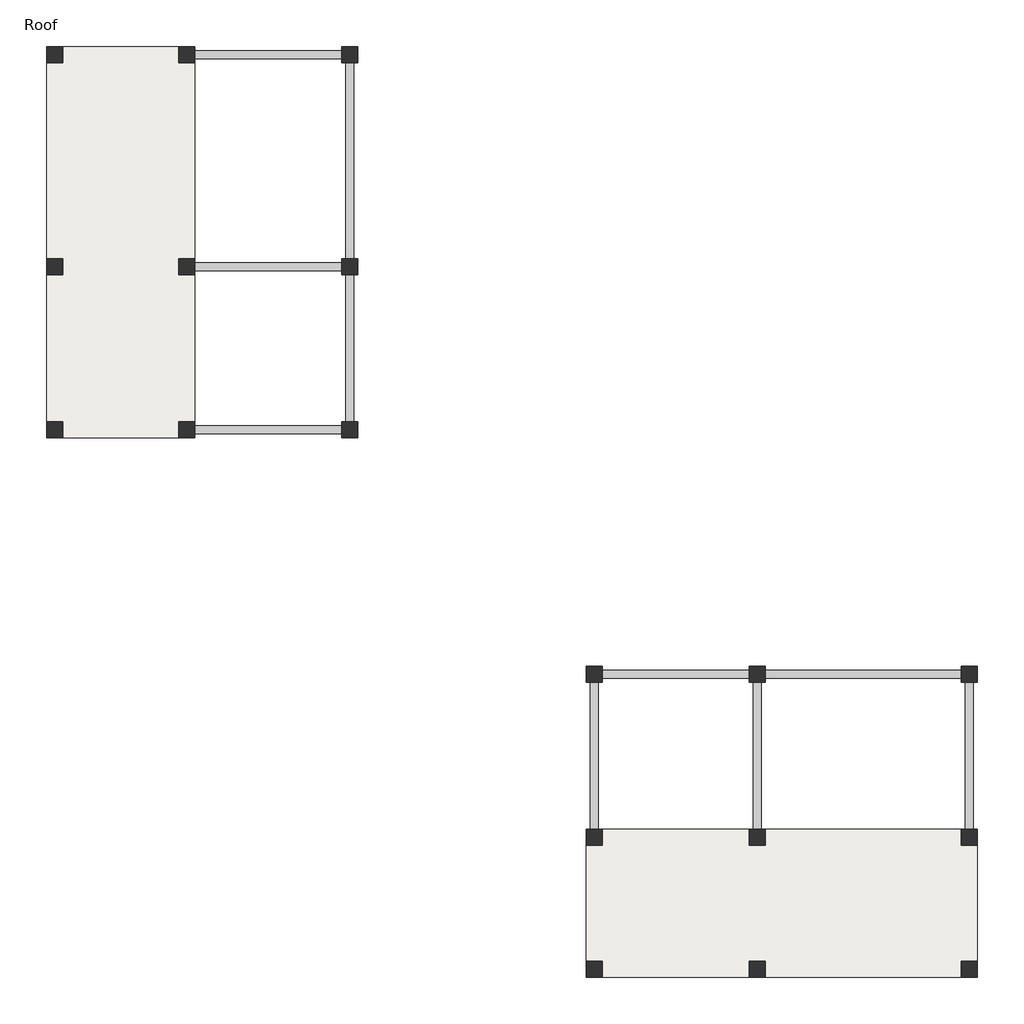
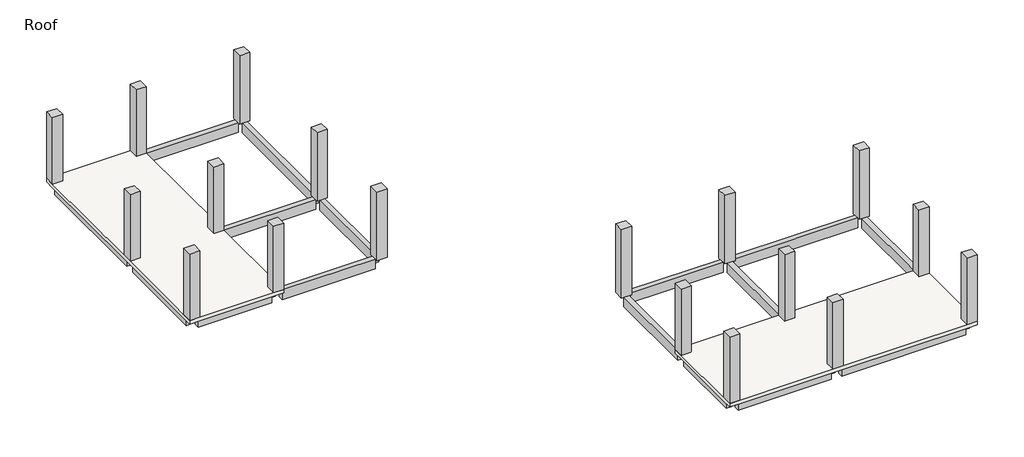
# One storey: 24 beams, 18 columns, 4 slabs.
"""IFC4 building model written with IfcOpenShell, lengths in millimetres."""

from ifc_helpers import new_model, si_unit, frame, origin, place, context, project, spatial, polyline, outline, extrude, faceted_brep, element, save

model = new_model("IFC4")

# Units and contexts
model_context = context("Model", 3, world=origin())
ifc_project = project(units=[si_unit("LENGTHUNIT", "METRE", prefix="MILLI")], contexts=[model_context])

# Site, building, storey
site = spatial("IfcSite", under=ifc_project)
building = spatial("IfcBuilding", under=site)
storey = spatial("IfcBuildingStorey", under=building, Name="Roof", Elevation=7315.0)

# Beams
placement = place(None, origin())
element("IfcBeam", 1, ObjectType="M_Concrete-Rectangular Beam : 300 x 600mm", at=placement, inside=storey, context=model_context, shape_type="SweptSolid", body=[
    extrude(outline(polyline([(-16304.9035319, 4112.1636035), (-16304.9035319, 4412.1636035), (-10808.9035319, 4412.1636035), (-10808.9035319, 4112.1636035), (-16304.9035319, 4112.1636035)])), frame((0.0, 0.0, 6715.0), z_axis=(0.0, 0.0, 1.0), x_axis=(1.0, 0.0, 0.0)), (0.0, 0.0, 1.0), 600.0),
])
element("IfcBeam", 2, ObjectType="M_Concrete-Rectangular Beam : 300 x 600mm", at=placement, inside=storey, context=model_context, shape_type="SweptSolid", body=[
    extrude(outline(polyline([(-21244.300634, 4112.1636035), (-21244.300634, 4412.1636035), (-16904.9035319, 4412.1636035), (-16904.9035319, 4112.1636035), (-21244.300634, 4112.1636035)])), frame((0.0, 0.0, 6715.0), z_axis=(0.0, 0.0, 1.0), x_axis=(1.0, 0.0, 0.0)), (0.0, 0.0, 1.0), 510.0),
])
element("IfcBeam", 3, ObjectType="M_Concrete-Rectangular Beam : 300 x 600mm", at=placement, inside=storey, context=model_context, shape_type="SweptSolid", body=[
    extrude(outline(polyline([(-16304.9035319, -3812.8363965), (-16304.9035319, -3512.8363965), (-10808.9035319, -3512.8363965), (-10808.9035319, -3812.8363965), (-16304.9035319, -3812.8363965)])), frame((0.0, 0.0, 6715.0), z_axis=(0.0, 0.0, 1.0), x_axis=(1.0, 0.0, 0.0)), (0.0, 0.0, 1.0), 600.0),
])
element("IfcBeam", 4, ObjectType="M_Concrete-Rectangular Beam : 300 x 600mm", at=placement, inside=storey, context=model_context, shape_type="SweptSolid", body=[
    extrude(outline(polyline([(-21244.300634, -3812.8363965), (-21244.300634, -3512.8363965), (-16904.9035319, -3512.8363965), (-16904.9035319, -3812.8363965), (-21244.300634, -3812.8363965)])), frame((0.0, 0.0, 6715.0), z_axis=(0.0, 0.0, 1.0), x_axis=(1.0, 0.0, 0.0)), (0.0, 0.0, 1.0), 510.0),
])
element("IfcBeam", 5, ObjectType="M_Concrete-Rectangular Beam : 300 x 600mm", at=placement, inside=storey, context=model_context, shape_type="SweptSolid", body=[
    extrude(outline(polyline([(-16304.9035319, -9908.8363965), (-16304.9035319, -9608.8363965), (-10808.9035319, -9608.8363965), (-10808.9035319, -9908.8363965), (-16304.9035319, -9908.8363965)])), frame((0.0, 0.0, 6715.0), z_axis=(0.0, 0.0, 1.0), x_axis=(1.0, 0.0, 0.0)), (0.0, 0.0, 1.0), 600.0),
])
element("IfcBeam", 6, ObjectType="M_Concrete-Rectangular Beam : 300 x 600mm", at=placement, inside=storey, context=model_context, shape_type="SweptSolid", body=[
    extrude(outline(polyline([(-21244.300634, -9908.8363965), (-21244.300634, -9608.8363965), (-16904.9035319, -9608.8363965), (-16904.9035319, -9908.8363965), (-21244.300634, -9908.8363965)])), frame((0.0, 0.0, 6715.0), z_axis=(0.0, 0.0, 1.0), x_axis=(1.0, 0.0, 0.0)), (0.0, 0.0, 1.0), 510.0),
])
element("IfcBeam", 7, ObjectType="M_Concrete-Rectangular Beam : 300 x 600mm", at=placement, inside=storey, context=model_context, shape_type="SweptSolid", body=[
    extrude(outline(polyline([(-21394.300634, -3362.8363965), (-21694.300634, -3362.8363965), (-21694.300634, 3962.1636035), (-21394.300634, 3962.1636035), (-21394.300634, -3362.8363965)])), frame((0.0, 0.0, 6715.0), z_axis=(0.0, 0.0, 1.0), x_axis=(1.0, 0.0, 0.0)), (0.0, 0.0, 1.0), 510.0),
])
element("IfcBeam", 8, ObjectType="M_Concrete-Rectangular Beam : 300 x 600mm", at=placement, inside=storey, context=model_context, shape_type="SweptSolid", body=[
    extrude(outline(polyline([(-21394.300634, -9458.8363965), (-21694.300634, -9458.8363965), (-21694.300634, -3962.8363965), (-21394.300634, -3962.8363965), (-21394.300634, -9458.8363965)])), frame((0.0, 0.0, 6715.0), z_axis=(0.0, 0.0, 1.0), x_axis=(1.0, 0.0, 0.0)), (0.0, 0.0, 1.0), 510.0),
])
element("IfcBeam", 9, ObjectType="M_Concrete-Rectangular Beam : 300 x 600mm", at=placement, inside=storey, context=model_context, shape_type="SweptSolid", body=[
    extrude(outline(polyline([(-16454.9035319, -9458.8363965), (-16754.9035319, -9458.8363965), (-16754.9035319, -3962.8363965), (-16454.9035319, -3962.8363965), (-16454.9035319, -9458.8363965)])), frame((0.0, 0.0, 6715.0), z_axis=(0.0, 0.0, 1.0), x_axis=(1.0, 0.0, 0.0)), (0.0, 0.0, 1.0), 510.0),
])
element("IfcBeam", 10, ObjectType="M_Concrete-Rectangular Beam : 300 x 600mm", at=placement, inside=storey, context=model_context, shape_type="SweptSolid", body=[
    extrude(outline(polyline([(-16454.9035319, -3362.8363965), (-16754.9035319, -3362.8363965), (-16754.9035319, 3962.1636035), (-16454.9035319, 3962.1636035), (-16454.9035319, -3362.8363965)])), frame((0.0, 0.0, 6715.0), z_axis=(0.0, 0.0, 1.0), x_axis=(1.0, 0.0, 0.0)), (0.0, 0.0, 1.0), 510.0),
])
element("IfcBeam", 11, ObjectType="M_Concrete-Rectangular Beam : 300 x 600mm", at=placement, inside=storey, context=model_context, shape_type="SweptSolid", body=[
    extrude(outline(polyline([(-10358.9035319, -9458.8363965), (-10658.9035319, -9458.8363965), (-10658.9035319, -3962.8363965), (-10358.9035319, -3962.8363965), (-10358.9035319, -9458.8363965)])), frame((0.0, 0.0, 6715.0), z_axis=(0.0, 0.0, 1.0), x_axis=(1.0, 0.0, 0.0)), (0.0, 0.0, 1.0), 600.0),
])
element("IfcBeam", 12, ObjectType="M_Concrete-Rectangular Beam : 300 x 600mm", at=placement, inside=storey, context=model_context, shape_type="SweptSolid", body=[
    extrude(outline(polyline([(-10358.9035319, -3362.8363965), (-10658.9035319, -3362.8363965), (-10658.9035319, 3962.1636035), (-10358.9035319, 3962.1636035), (-10358.9035319, -3362.8363965)])), frame((0.0, 0.0, 6715.0), z_axis=(0.0, 0.0, 1.0), x_axis=(1.0, 0.0, 0.0)), (0.0, 0.0, 1.0), 600.0),
])
element("IfcBeam", 13, ObjectType="M_Concrete-Rectangular Beam : 300 x 600mm", at=placement, inside=storey, context=model_context, shape_type="SweptSolid", body=[
    extrude(outline(polyline([(12806.0964681, -24698.8363965), (12506.0964681, -24698.8363965), (12506.0964681, -19202.8363965), (12806.0964681, -19202.8363965), (12806.0964681, -24698.8363965)])), frame((0.0, 0.0, 6715.0), z_axis=(0.0, 0.0, 1.0), x_axis=(1.0, 0.0, 0.0)), (0.0, 0.0, 1.0), 600.0),
])
element("IfcBeam", 14, ObjectType="M_Concrete-Rectangular Beam : 300 x 600mm", at=placement, inside=storey, context=model_context, shape_type="SweptSolid", body=[
    extrude(outline(polyline([(12806.0964681, -29638.2334986), (12506.0964681, -29638.2334986), (12506.0964681, -25298.8363965), (12806.0964681, -25298.8363965), (12806.0964681, -29638.2334986)])), frame((0.0, 0.0, 6715.0), z_axis=(0.0, 0.0, 1.0), x_axis=(1.0, 0.0, 0.0)), (0.0, 0.0, 1.0), 510.0),
])
element("IfcBeam", 15, ObjectType="M_Concrete-Rectangular Beam : 300 x 600mm", at=placement, inside=storey, context=model_context, shape_type="SweptSolid", body=[
    extrude(outline(polyline([(4881.0964681, -24698.8363965), (4581.0964681, -24698.8363965), (4581.0964681, -19202.8363965), (4881.0964681, -19202.8363965), (4881.0964681, -24698.8363965)])), frame((0.0, 0.0, 6715.0), z_axis=(0.0, 0.0, 1.0), x_axis=(1.0, 0.0, 0.0)), (0.0, 0.0, 1.0), 600.0),
])
element("IfcBeam", 16, ObjectType="M_Concrete-Rectangular Beam : 300 x 600mm", at=placement, inside=storey, context=model_context, shape_type="SweptSolid", body=[
    extrude(outline(polyline([(4881.0964681, -29638.2334986), (4581.0964681, -29638.2334986), (4581.0964681, -25298.8363965), (4881.0964681, -25298.8363965), (4881.0964681, -29638.2334986)])), frame((0.0, 0.0, 6715.0), z_axis=(0.0, 0.0, 1.0), x_axis=(1.0, 0.0, 0.0)), (0.0, 0.0, 1.0), 510.0),
])
element("IfcBeam", 17, ObjectType="M_Concrete-Rectangular Beam : 300 x 600mm", at=placement, inside=storey, context=model_context, shape_type="SweptSolid", body=[
    extrude(outline(polyline([(-1214.9035319, -24698.8363965), (-1514.9035319, -24698.8363965), (-1514.9035319, -19202.8363965), (-1214.9035319, -19202.8363965), (-1214.9035319, -24698.8363965)])), frame((0.0, 0.0, 6715.0), z_axis=(0.0, 0.0, 1.0), x_axis=(1.0, 0.0, 0.0)), (0.0, 0.0, 1.0), 600.0),
])
element("IfcBeam", 18, ObjectType="M_Concrete-Rectangular Beam : 300 x 600mm", at=placement, inside=storey, context=model_context, shape_type="SweptSolid", body=[
    extrude(outline(polyline([(-1214.9035319, -29638.2334986), (-1514.9035319, -29638.2334986), (-1514.9035319, -25298.8363965), (-1214.9035319, -25298.8363965), (-1214.9035319, -29638.2334986)])), frame((0.0, 0.0, 6715.0), z_axis=(0.0, 0.0, 1.0), x_axis=(1.0, 0.0, 0.0)), (0.0, 0.0, 1.0), 510.0),
])
element("IfcBeam", 19, ObjectType="M_Concrete-Rectangular Beam : 300 x 600mm", at=placement, inside=storey, context=model_context, shape_type="SweptSolid", body=[
    extrude(outline(polyline([(5031.0964681, -30088.2334986), (5031.0964681, -29788.2334986), (12356.0964681, -29788.2334986), (12356.0964681, -30088.2334986), (5031.0964681, -30088.2334986)])), frame((0.0, 0.0, 6715.0), z_axis=(0.0, 0.0, 1.0), x_axis=(1.0, 0.0, 0.0)), (0.0, 0.0, 1.0), 510.0),
])
element("IfcBeam", 20, ObjectType="M_Concrete-Rectangular Beam : 300 x 600mm", at=placement, inside=storey, context=model_context, shape_type="SweptSolid", body=[
    extrude(outline(polyline([(-1064.9035319, -30088.2334986), (-1064.9035319, -29788.2334986), (4431.0964681, -29788.2334986), (4431.0964681, -30088.2334986), (-1064.9035319, -30088.2334986)])), frame((0.0, 0.0, 6715.0), z_axis=(0.0, 0.0, 1.0), x_axis=(1.0, 0.0, 0.0)), (0.0, 0.0, 1.0), 510.0),
])
element("IfcBeam", 21, ObjectType="M_Concrete-Rectangular Beam : 300 x 600mm", at=placement, inside=storey, context=model_context, shape_type="SweptSolid", body=[
    extrude(outline(polyline([(-1064.9035319, -25148.8363965), (-1064.9035319, -24848.8363965), (4431.0964681, -24848.8363965), (4431.0964681, -25148.8363965), (-1064.9035319, -25148.8363965)])), frame((0.0, 0.0, 6715.0), z_axis=(0.0, 0.0, 1.0), x_axis=(1.0, 0.0, 0.0)), (0.0, 0.0, 1.0), 510.0),
])
element("IfcBeam", 22, ObjectType="M_Concrete-Rectangular Beam : 300 x 600mm", at=placement, inside=storey, context=model_context, shape_type="SweptSolid", body=[
    extrude(outline(polyline([(5031.0964681, -25148.8363965), (5031.0964681, -24848.8363965), (12356.0964681, -24848.8363965), (12356.0964681, -25148.8363965), (5031.0964681, -25148.8363965)])), frame((0.0, 0.0, 6715.0), z_axis=(0.0, 0.0, 1.0), x_axis=(1.0, 0.0, 0.0)), (0.0, 0.0, 1.0), 510.0),
])
element("IfcBeam", 23, ObjectType="M_Concrete-Rectangular Beam : 300 x 600mm", at=placement, inside=storey, context=model_context, shape_type="SweptSolid", body=[
    extrude(outline(polyline([(-1064.9035319, -19052.8363965), (-1064.9035319, -18752.8363965), (4431.0964681, -18752.8363965), (4431.0964681, -19052.8363965), (-1064.9035319, -19052.8363965)])), frame((0.0, 0.0, 6715.0), z_axis=(0.0, 0.0, 1.0), x_axis=(1.0, 0.0, 0.0)), (0.0, 0.0, 1.0), 600.0),
])
element("IfcBeam", 24, ObjectType="M_Concrete-Rectangular Beam : 300 x 600mm", at=placement, inside=storey, context=model_context, shape_type="SweptSolid", body=[
    extrude(outline(polyline([(5031.0964681, -19052.8363965), (5031.0964681, -18752.8363965), (12356.0964681, -18752.8363965), (12356.0964681, -19052.8363965), (5031.0964681, -19052.8363965)])), frame((0.0, 0.0, 6715.0), z_axis=(0.0, 0.0, 1.0), x_axis=(1.0, 0.0, 0.0)), (0.0, 0.0, 1.0), 600.0),
])

# Columns
element("IfcColumn", 25, ObjectType="M_Concrete-Rectangular-Column : 600 x 600mm", at=placement, inside=storey, context=model_context, shape_type="SweptSolid", body=[
    extrude(outline(polyline([(-21844.300634, -10058.8363965), (-21844.300634, -9458.8363965), (-21244.300634, -9458.8363965), (-21244.300634, -10058.8363965), (-21844.300634, -10058.8363965)])), frame((0.0, 0.0, 7435.0), z_axis=(0.0, 0.0, 1.0), x_axis=(1.0, 0.0, 0.0)), (0.0, 0.0, 1.0), 4147.0),
])
element("IfcColumn", 26, ObjectType="M_Concrete-Rectangular-Column : 600 x 600mm", at=placement, inside=storey, context=model_context, shape_type="SweptSolid", body=[
    extrude(outline(polyline([(-21844.300634, -3962.8363965), (-21844.300634, -3362.8363965), (-21244.300634, -3362.8363965), (-21244.300634, -3962.8363965), (-21844.300634, -3962.8363965)])), frame((0.0, 0.0, 7435.0), z_axis=(0.0, 0.0, 1.0), x_axis=(1.0, 0.0, 0.0)), (0.0, 0.0, 1.0), 4147.0),
])
element("IfcColumn", 27, ObjectType="M_Concrete-Rectangular-Column : 600 x 600mm", at=placement, inside=storey, context=model_context, shape_type="SweptSolid", body=[
    extrude(outline(polyline([(-21844.300634, 3962.1636035), (-21844.300634, 4562.1636035), (-21244.300634, 4562.1636035), (-21244.300634, 3962.1636035), (-21844.300634, 3962.1636035)])), frame((0.0, 0.0, 7435.0), z_axis=(0.0, 0.0, 1.0), x_axis=(1.0, 0.0, 0.0)), (0.0, 0.0, 1.0), 4147.0),
])
element("IfcColumn", 28, ObjectType="M_Concrete-Rectangular-Column : 600 x 600mm", at=placement, inside=storey, context=model_context, shape_type="SweptSolid", body=[
    extrude(outline(polyline([(-16904.9035319, -10058.8363965), (-16904.9035319, -9458.8363965), (-16304.9035319, -9458.8363965), (-16304.9035319, -10058.8363965), (-16904.9035319, -10058.8363965)])), frame((0.0, 0.0, 7435.0), z_axis=(0.0, 0.0, 1.0), x_axis=(1.0, 0.0, 0.0)), (0.0, 0.0, 1.0), 4147.0),
])
element("IfcColumn", 29, ObjectType="M_Concrete-Rectangular-Column : 600 x 600mm", at=placement, inside=storey, context=model_context, shape_type="SweptSolid", body=[
    extrude(outline(polyline([(-16904.9035319, -3962.8363965), (-16904.9035319, -3362.8363965), (-16304.9035319, -3362.8363965), (-16304.9035319, -3962.8363965), (-16904.9035319, -3962.8363965)])), frame((0.0, 0.0, 7435.0), z_axis=(0.0, 0.0, 1.0), x_axis=(1.0, 0.0, 0.0)), (0.0, 0.0, 1.0), 4147.0),
])
element("IfcColumn", 30, ObjectType="M_Concrete-Rectangular-Column : 600 x 600mm", at=placement, inside=storey, context=model_context, shape_type="SweptSolid", body=[
    extrude(outline(polyline([(-16904.9035319, 3962.1636035), (-16904.9035319, 4562.1636035), (-16304.9035319, 4562.1636035), (-16304.9035319, 3962.1636035), (-16904.9035319, 3962.1636035)])), frame((0.0, 0.0, 7435.0), z_axis=(0.0, 0.0, 1.0), x_axis=(1.0, 0.0, 0.0)), (0.0, 0.0, 1.0), 4147.0),
])
element("IfcColumn", 31, ObjectType="M_Concrete-Rectangular-Column : 600 x 600mm", at=placement, inside=storey, context=model_context, shape_type="SweptSolid", body=[
    extrude(outline(polyline([(-10808.9035319, -10058.8363965), (-10808.9035319, -9458.8363965), (-10208.9035319, -9458.8363965), (-10208.9035319, -10058.8363965), (-10808.9035319, -10058.8363965)])), frame((0.0, 0.0, 7315.0), z_axis=(0.0, 0.0, 1.0), x_axis=(1.0, 0.0, 0.0)), (0.0, 0.0, 1.0), 4267.0),
])
element("IfcColumn", 32, ObjectType="M_Concrete-Rectangular-Column : 600 x 600mm", at=placement, inside=storey, context=model_context, shape_type="SweptSolid", body=[
    extrude(outline(polyline([(-10808.9035319, -3962.8363965), (-10808.9035319, -3362.8363965), (-10208.9035319, -3362.8363965), (-10208.9035319, -3962.8363965), (-10808.9035319, -3962.8363965)])), frame((0.0, 0.0, 7315.0), z_axis=(0.0, 0.0, 1.0), x_axis=(1.0, 0.0, 0.0)), (0.0, 0.0, 1.0), 4267.0),
])
element("IfcColumn", 33, ObjectType="M_Concrete-Rectangular-Column : 600 x 600mm", at=placement, inside=storey, context=model_context, shape_type="SweptSolid", body=[
    extrude(outline(polyline([(-10808.9035319, 3962.1636035), (-10808.9035319, 4562.1636035), (-10208.9035319, 4562.1636035), (-10208.9035319, 3962.1636035), (-10808.9035319, 3962.1636035)])), frame((0.0, 0.0, 7315.0), z_axis=(0.0, 0.0, 1.0), x_axis=(1.0, 0.0, 0.0)), (0.0, 0.0, 1.0), 4267.0),
])
element("IfcColumn", 34, ObjectType="M_Concrete-Rectangular-Column : 600 x 600mm", at=placement, inside=storey, context=model_context, shape_type="SweptSolid", body=[
    extrude(outline(polyline([(-1064.9035319, -30238.2334986), (-1664.9035319, -30238.2334986), (-1664.9035319, -29638.2334986), (-1064.9035319, -29638.2334986), (-1064.9035319, -30238.2334986)])), frame((0.0, 0.0, 7435.0), z_axis=(0.0, 0.0, 1.0), x_axis=(1.0, 0.0, 0.0)), (0.0, 0.0, 1.0), 4147.0),
])
element("IfcColumn", 35, ObjectType="M_Concrete-Rectangular-Column : 600 x 600mm", at=placement, inside=storey, context=model_context, shape_type="SweptSolid", body=[
    extrude(outline(polyline([(5031.0964681, -30238.2334986), (4431.0964681, -30238.2334986), (4431.0964681, -29638.2334986), (5031.0964681, -29638.2334986), (5031.0964681, -30238.2334986)])), frame((0.0, 0.0, 7435.0), z_axis=(0.0, 0.0, 1.0), x_axis=(1.0, 0.0, 0.0)), (0.0, 0.0, 1.0), 4147.0),
])
element("IfcColumn", 36, ObjectType="M_Concrete-Rectangular-Column : 600 x 600mm", at=placement, inside=storey, context=model_context, shape_type="SweptSolid", body=[
    extrude(outline(polyline([(12956.0964681, -30238.2334986), (12356.0964681, -30238.2334986), (12356.0964681, -29638.2334986), (12956.0964681, -29638.2334986), (12956.0964681, -30238.2334986)])), frame((0.0, 0.0, 7435.0), z_axis=(0.0, 0.0, 1.0), x_axis=(1.0, 0.0, 0.0)), (0.0, 0.0, 1.0), 4147.0),
])
element("IfcColumn", 37, ObjectType="M_Concrete-Rectangular-Column : 600 x 600mm", at=placement, inside=storey, context=model_context, shape_type="SweptSolid", body=[
    extrude(outline(polyline([(-1064.9035319, -25298.8363965), (-1664.9035319, -25298.8363965), (-1664.9035319, -24698.8363965), (-1064.9035319, -24698.8363965), (-1064.9035319, -25298.8363965)])), frame((0.0, 0.0, 7435.0), z_axis=(0.0, 0.0, 1.0), x_axis=(1.0, 0.0, 0.0)), (0.0, 0.0, 1.0), 4147.0),
])
element("IfcColumn", 38, ObjectType="M_Concrete-Rectangular-Column : 600 x 600mm", at=placement, inside=storey, context=model_context, shape_type="SweptSolid", body=[
    extrude(outline(polyline([(5031.0964681, -25298.8363965), (4431.0964681, -25298.8363965), (4431.0964681, -24698.8363965), (5031.0964681, -24698.8363965), (5031.0964681, -25298.8363965)])), frame((0.0, 0.0, 7435.0), z_axis=(0.0, 0.0, 1.0), x_axis=(1.0, 0.0, 0.0)), (0.0, 0.0, 1.0), 4147.0),
])
element("IfcColumn", 39, ObjectType="M_Concrete-Rectangular-Column : 600 x 600mm", at=placement, inside=storey, context=model_context, shape_type="SweptSolid", body=[
    extrude(outline(polyline([(12956.0964681, -25298.8363965), (12356.0964681, -25298.8363965), (12356.0964681, -24698.8363965), (12956.0964681, -24698.8363965), (12956.0964681, -25298.8363965)])), frame((0.0, 0.0, 7435.0), z_axis=(0.0, 0.0, 1.0), x_axis=(1.0, 0.0, 0.0)), (0.0, 0.0, 1.0), 4147.0),
])
element("IfcColumn", 40, ObjectType="M_Concrete-Rectangular-Column : 600 x 600mm", at=placement, inside=storey, context=model_context, shape_type="SweptSolid", body=[
    extrude(outline(polyline([(-1664.9035319, -19202.8363965), (-1664.9035319, -18602.8363965), (-1064.9035319, -18602.8363965), (-1064.9035319, -19202.8363965), (-1664.9035319, -19202.8363965)])), frame((0.0, 0.0, 7315.0), z_axis=(0.0, 0.0, 1.0), x_axis=(1.0, 0.0, 0.0)), (0.0, 0.0, 1.0), 4267.0),
])
element("IfcColumn", 41, ObjectType="M_Concrete-Rectangular-Column : 600 x 600mm", at=placement, inside=storey, context=model_context, shape_type="SweptSolid", body=[
    extrude(outline(polyline([(4431.0964681, -19202.8363965), (4431.0964681, -18602.8363965), (5031.0964681, -18602.8363965), (5031.0964681, -19202.8363965), (4431.0964681, -19202.8363965)])), frame((0.0, 0.0, 7315.0), z_axis=(0.0, 0.0, 1.0), x_axis=(1.0, 0.0, 0.0)), (0.0, 0.0, 1.0), 4267.0),
])
element("IfcColumn", 42, ObjectType="M_Concrete-Rectangular-Column : 600 x 600mm", at=placement, inside=storey, context=model_context, shape_type="SweptSolid", body=[
    extrude(outline(polyline([(12356.0964681, -19202.8363965), (12356.0964681, -18602.8363965), (12956.0964681, -18602.8363965), (12956.0964681, -19202.8363965), (12356.0964681, -19202.8363965)])), frame((0.0, 0.0, 7315.0), z_axis=(0.0, 0.0, 1.0), x_axis=(1.0, 0.0, 0.0)), (0.0, 0.0, 1.0), 4267.0),
])

# Slabs
element("IfcSlab", 43, ObjectType="160mm Concrete With 50mm Metal Deck", at=placement, inside=storey, context=model_context, shape_type="Brep", body=[
    faceted_brep([(-16304.9035319, 4562.1636035, 7225.0), (-16304.9035319, 3962.1636035, 7225.0), (-16304.9035319, -3362.8363965, 7225.0), (-16304.9035319, -3962.8363965, 7225.0), (-16304.9035319, -9458.8363965, 7225.0), (-16304.9035319, -10058.8363965, 7225.0), (-16904.9035319, -10058.8363965, 7225.0), (-21244.300634, -10058.8363965, 7225.0), (-21844.300634, -10058.8363965, 7225.0), (-21844.300634, -9458.8363965, 7225.0), (-21844.300634, -3962.8363965, 7225.0), (-21844.300634, -3362.8363965, 7225.0), (-21844.300634, 3962.1636035, 7225.0), (-21844.300634, 4562.1636035, 7225.0), (-21244.300634, 4562.1636035, 7225.0), (-16904.9035319, 4562.1636035, 7225.0), (-16304.9035319, 4562.1636035, 7435.0), (-16904.9035319, 4562.1636035, 7435.0), (-21244.300634, 4562.1636035, 7435.0), (-21844.300634, 4562.1636035, 7435.0), (-21844.300634, 3962.1636035, 7435.0), (-21844.300634, -3362.8363965, 7435.0), (-21844.300634, -3962.8363965, 7435.0), (-21844.300634, -9458.8363965, 7435.0), (-21844.300634, -10058.8363965, 7435.0), (-21244.300634, -10058.8363965, 7435.0), (-16904.9035319, -10058.8363965, 7435.0), (-16304.9035319, -10058.8363965, 7435.0), (-16304.9035319, -9458.8363965, 7435.0), (-16304.9035319, -3962.8363965, 7435.0), (-16304.9035319, -3362.8363965, 7435.0), (-16304.9035319, 3962.1636035, 7435.0)], [[[0, 1, 2, 3, 4, 5, 6, 7, 8, 9, 10, 11, 12, 13, 14, 15]], [[16, 17, 18, 19, 20, 21, 22, 23, 24, 25, 26, 27, 28, 29, 30, 31]], [[5, 4, 3, 2, 1, 0, 16, 31, 30, 29, 28, 27]], [[8, 7, 6, 5, 27, 26, 25, 24]], [[13, 12, 11, 10, 9, 8, 24, 23, 22, 21, 20, 19]], [[0, 15, 14, 13, 19, 18, 17, 16]]]),
])
element("IfcSlab", 44, ObjectType="160mm Concrete With 50mm Metal Deck", at=placement, inside=storey, context=model_context, shape_type="Brep", body=[
    faceted_brep([(-16304.9035319, 4562.1636035, 7225.0), (-16304.9035319, 3962.1636035, 7225.0), (-16304.9035319, -3362.8363965, 7225.0), (-16304.9035319, -3962.8363965, 7225.0), (-16304.9035319, -9458.8363965, 7225.0), (-16304.9035319, -10058.8363965, 7225.0), (-16904.9035319, -10058.8363965, 7225.0), (-21244.300634, -10058.8363965, 7225.0), (-21844.300634, -10058.8363965, 7225.0), (-21844.300634, -9458.8363965, 7225.0), (-21844.300634, -3962.8363965, 7225.0), (-21844.300634, -3362.8363965, 7225.0), (-21844.300634, 3962.1636035, 7225.0), (-21844.300634, 4562.1636035, 7225.0), (-21244.300634, 4562.1636035, 7225.0), (-16904.9035319, 4562.1636035, 7225.0), (-16304.9035319, 4562.1636035, 7435.0), (-16904.9035319, 4562.1636035, 7435.0), (-21244.300634, 4562.1636035, 7435.0), (-21844.300634, 4562.1636035, 7435.0), (-21844.300634, 3962.1636035, 7435.0), (-21844.300634, -3362.8363965, 7435.0), (-21844.300634, -3962.8363965, 7435.0), (-21844.300634, -9458.8363965, 7435.0), (-21844.300634, -10058.8363965, 7435.0), (-21244.300634, -10058.8363965, 7435.0), (-16904.9035319, -10058.8363965, 7435.0), (-16304.9035319, -10058.8363965, 7435.0), (-16304.9035319, -9458.8363965, 7435.0), (-16304.9035319, -3962.8363965, 7435.0), (-16304.9035319, -3362.8363965, 7435.0), (-16304.9035319, 3962.1636035, 7435.0)], [[[0, 1, 2, 3, 4, 5, 6, 7, 8, 9, 10, 11, 12, 13, 14, 15]], [[16, 17, 18, 19, 20, 21, 22, 23, 24, 25, 26, 27, 28, 29, 30, 31]], [[5, 4, 3, 2, 1, 0, 16, 31, 30, 29, 28, 27]], [[8, 7, 6, 5, 27, 26, 25, 24]], [[13, 12, 11, 10, 9, 8, 24, 23, 22, 21, 20, 19]], [[0, 15, 14, 13, 19, 18, 17, 16]]]),
])
element("IfcSlab", 45, ObjectType="160mm Concrete With 50mm Metal Deck", at=placement, inside=storey, context=model_context, shape_type="Brep", body=[
    faceted_brep([(12956.0964681, -24698.8363965, 7225.0), (12956.0964681, -25298.8363965, 7225.0), (12956.0964681, -29638.2334986, 7225.0), (12956.0964681, -30238.2334986, 7225.0), (12356.0964681, -30238.2334986, 7225.0), (5031.0964681, -30238.2334986, 7225.0), (4431.0964681, -30238.2334986, 7225.0), (-1064.9035319, -30238.2334986, 7225.0), (-1664.9035319, -30238.2334986, 7225.0), (-1664.9035319, -29638.2334986, 7225.0), (-1664.9035319, -25298.8363965, 7225.0), (-1664.9035319, -24698.8363965, 7225.0), (-1064.9035319, -24698.8363965, 7225.0), (4431.0964681, -24698.8363965, 7225.0), (5031.0964681, -24698.8363965, 7225.0), (12356.0964681, -24698.8363965, 7225.0), (12956.0964681, -24698.8363965, 7435.0), (12356.0964681, -24698.8363965, 7435.0), (5031.0964681, -24698.8363965, 7435.0), (4431.0964681, -24698.8363965, 7435.0), (-1064.9035319, -24698.8363965, 7435.0), (-1664.9035319, -24698.8363965, 7435.0), (-1664.9035319, -25298.8363965, 7435.0), (-1664.9035319, -29638.2334986, 7435.0), (-1664.9035319, -30238.2334986, 7435.0), (-1064.9035319, -30238.2334986, 7435.0), (4431.0964681, -30238.2334986, 7435.0), (5031.0964681, -30238.2334986, 7435.0), (12356.0964681, -30238.2334986, 7435.0), (12956.0964681, -30238.2334986, 7435.0), (12956.0964681, -29638.2334986, 7435.0), (12956.0964681, -25298.8363965, 7435.0)], [[[0, 1, 2, 3, 4, 5, 6, 7, 8, 9, 10, 11, 12, 13, 14, 15]], [[16, 17, 18, 19, 20, 21, 22, 23, 24, 25, 26, 27, 28, 29, 30, 31]], [[0, 15, 14, 13, 12, 11, 21, 20, 19, 18, 17, 16]], [[11, 10, 9, 8, 24, 23, 22, 21]], [[8, 7, 6, 5, 4, 3, 29, 28, 27, 26, 25, 24]], [[3, 2, 1, 0, 16, 31, 30, 29]]]),
])
element("IfcSlab", 46, ObjectType="160mm Concrete With 50mm Metal Deck", at=placement, inside=storey, context=model_context, shape_type="Brep", body=[
    faceted_brep([(12956.0964681, -24698.8363965, 7225.0), (12956.0964681, -25298.8363965, 7225.0), (12956.0964681, -29638.2334986, 7225.0), (12956.0964681, -30238.2334986, 7225.0), (12356.0964681, -30238.2334986, 7225.0), (5031.0964681, -30238.2334986, 7225.0), (4431.0964681, -30238.2334986, 7225.0), (-1064.9035319, -30238.2334986, 7225.0), (-1664.9035319, -30238.2334986, 7225.0), (-1664.9035319, -29638.2334986, 7225.0), (-1664.9035319, -25298.8363965, 7225.0), (-1664.9035319, -24698.8363965, 7225.0), (-1064.9035319, -24698.8363965, 7225.0), (4431.0964681, -24698.8363965, 7225.0), (5031.0964681, -24698.8363965, 7225.0), (12356.0964681, -24698.8363965, 7225.0), (12956.0964681, -24698.8363965, 7435.0), (12356.0964681, -24698.8363965, 7435.0), (5031.0964681, -24698.8363965, 7435.0), (4431.0964681, -24698.8363965, 7435.0), (-1064.9035319, -24698.8363965, 7435.0), (-1664.9035319, -24698.8363965, 7435.0), (-1664.9035319, -25298.8363965, 7435.0), (-1664.9035319, -29638.2334986, 7435.0), (-1664.9035319, -30238.2334986, 7435.0), (-1064.9035319, -30238.2334986, 7435.0), (4431.0964681, -30238.2334986, 7435.0), (5031.0964681, -30238.2334986, 7435.0), (12356.0964681, -30238.2334986, 7435.0), (12956.0964681, -30238.2334986, 7435.0), (12956.0964681, -29638.2334986, 7435.0), (12956.0964681, -25298.8363965, 7435.0)], [[[0, 1, 2, 3, 4, 5, 6, 7, 8, 9, 10, 11, 12, 13, 14, 15]], [[16, 17, 18, 19, 20, 21, 22, 23, 24, 25, 26, 27, 28, 29, 30, 31]], [[0, 15, 14, 13, 12, 11, 21, 20, 19, 18, 17, 16]], [[11, 10, 9, 8, 24, 23, 22, 21]], [[8, 7, 6, 5, 4, 3, 29, 28, 27, 26, 25, 24]], [[3, 2, 1, 0, 16, 31, 30, 29]]]),
])

save(model, "model.ifc")
